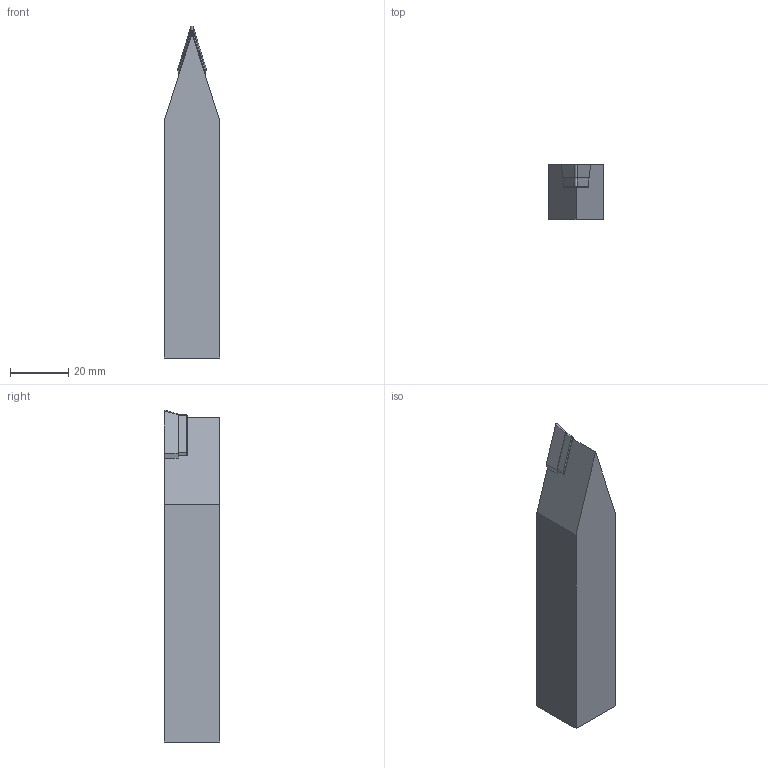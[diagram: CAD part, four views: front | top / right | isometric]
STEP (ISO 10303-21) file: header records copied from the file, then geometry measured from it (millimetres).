
FILE_DESCRIPTION (( 'STEP AP203' ), '1' );
FILE_NAME ('SVVBN12-3B-HAAS.STEP', '2020-11-06T07:56:14', ( '' ), ( '' ), 'SwSTEP 2.0', 'SolidWorks 2015', '' );
FILE_SCHEMA (( 'CONFIG_CONTROL_DESIGN' ));
Length unit declared in the file: millimetre
Products named in the file (5): SV32S_ル遽; SVVBN12-3B-HAAS_ル遽; VBGT160404_ル遽; SVVBN12-3B-HAAS
Assembly tree (4 placements, depth 3):
  SVVBN12-3B-HAAS
    SVVBN12-3B-HAAS
      SVVBN12-3B-HAAS_ル遽
      SV32S_ル遽
      VBGT160404_ル遽
Bounding box: 19.05 x 19.05 x 114.31 mm (x, y, z)
Volume: 35083.3 mm3; surface area: 9404.6 mm2
Topology: 3 solids, 3 shells, 40 faces, 92 edges, 59 vertices
Faces by surface type: plane 30, cylinder 7, cone 3
Full cylindrical faces by diameter (mm): 4.5 x1, 5.4 x1, 6.7 x1
Entity records: 1628 total; most frequent: CARTESIAN_POINT 207, DIRECTION 193, ORIENTED_EDGE 176, EDGE_CURVE 88, VECTOR 71, LINE 71, AXIS2_PLACEMENT_3D 61, VERTEX_POINT 59
